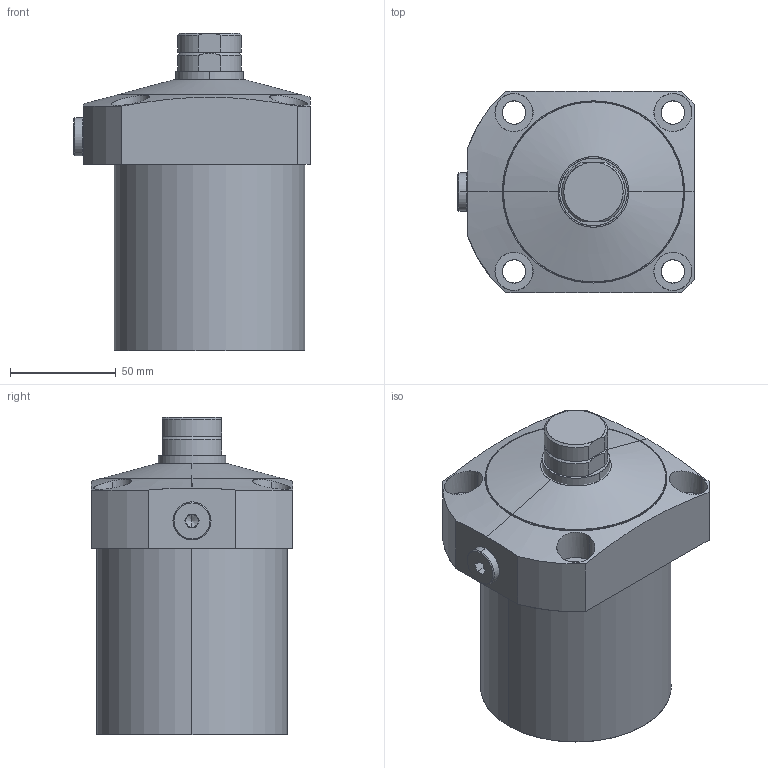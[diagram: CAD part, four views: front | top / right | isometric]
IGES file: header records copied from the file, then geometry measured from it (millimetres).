
Start section: SolidWorks IGES file using analytic representation for surfaces
Global section: file name: D:\karuppas\Clasp\Work support\FW10-0906 work support.IGS; native system: SolidWorks 2017; preprocessor: SolidWorks 2017; author: pc; date: 210819.231122; units: millimetre
Bounding box: 111.5 x 95 x 150 mm (x, y, z)
Surface area: 70636 mm2 (no closed solid volume)
Topology: 0 solids, 0 shells, 101 faces, 2143 edges, 2139 vertices
Faces by surface type: revolution 62, bspline 39
